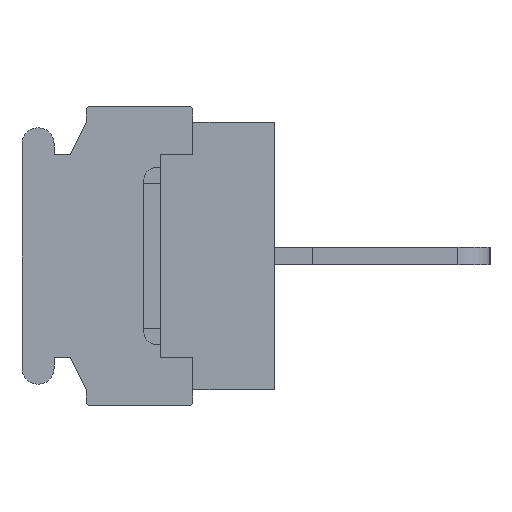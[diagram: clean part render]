
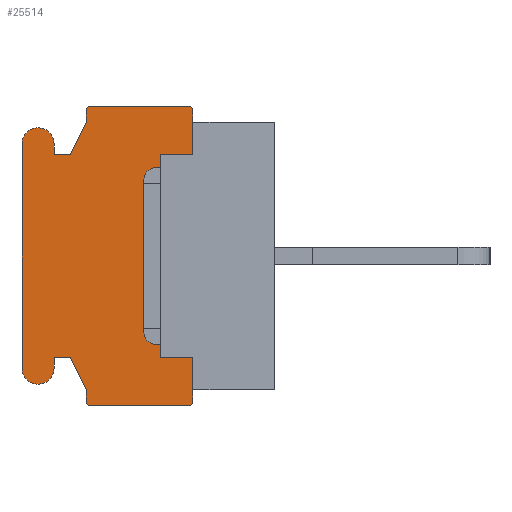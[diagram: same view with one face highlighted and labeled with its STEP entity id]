
A CAD part, left-side view. The second image highlights one B-rep face of the part: STEP entity #25514.
In plain terms, the highlighted planar face has unit normal (-1, 0, 0).
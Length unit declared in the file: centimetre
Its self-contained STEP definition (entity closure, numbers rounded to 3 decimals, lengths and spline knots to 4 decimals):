
#1472=PLANE('',#41555);
#2221=VECTOR('',#26888,1.);
#3900=VECTOR('',#30519,1.);
#3901=VECTOR('',#30520,1.);
#3902=VECTOR('',#30523,1.);
#3903=VECTOR('',#30526,1.);
#3904=VECTOR('',#30527,1.);
#3905=VECTOR('',#30528,1.);
#3906=VECTOR('',#30529,1.);
#3907=VECTOR('',#30532,1.);
#3908=VECTOR('',#30535,1.);
#3909=VECTOR('',#30536,1.);
#3910=VECTOR('',#30537,1.);
#3911=VECTOR('',#30538,1.);
#3912=VECTOR('',#30541,1.);
#3913=VECTOR('',#30544,1.);
#3914=VECTOR('',#30545,1.);
#3915=VECTOR('',#30546,1.);
#3916=VECTOR('',#30547,1.);
#4945=LINE('',#33283,#2221);
#6624=LINE('',#38357,#3900);
#6625=LINE('',#38359,#3901);
#6626=LINE('',#38363,#3902);
#6627=LINE('',#38367,#3903);
#6628=LINE('',#38369,#3904);
#6629=LINE('',#38371,#3905);
#6630=LINE('',#38373,#3906);
#6631=LINE('',#38377,#3907);
#6632=LINE('',#38381,#3908);
#6633=LINE('',#38383,#3909);
#6634=LINE('',#38385,#3910);
#6635=LINE('',#38387,#3911);
#6636=LINE('',#38391,#3912);
#6637=LINE('',#38395,#3913);
#6638=LINE('',#38396,#3914);
#6639=LINE('',#38398,#3915);
#6640=LINE('',#38399,#3916);
#7608=VERTEX_POINT('',#33284);
#7609=VERTEX_POINT('',#33285);
#7718=VERTEX_POINT('',#33587);
#7765=VERTEX_POINT('',#33686);
#9178=VERTEX_POINT('',#38358);
#9179=VERTEX_POINT('',#38360);
#9180=VERTEX_POINT('',#38362);
#9181=VERTEX_POINT('',#38364);
#9182=VERTEX_POINT('',#38366);
#9183=VERTEX_POINT('',#38368);
#9184=VERTEX_POINT('',#38370);
#9185=VERTEX_POINT('',#38372);
#9186=VERTEX_POINT('',#38374);
#9187=VERTEX_POINT('',#38376);
#9188=VERTEX_POINT('',#38378);
#9189=VERTEX_POINT('',#38380);
#9190=VERTEX_POINT('',#38382);
#9191=VERTEX_POINT('',#38384);
#9192=VERTEX_POINT('',#38386);
#9193=VERTEX_POINT('',#38388);
#9194=VERTEX_POINT('',#38390);
#9195=VERTEX_POINT('',#38392);
#9196=VERTEX_POINT('',#38394);
#9197=VERTEX_POINT('',#38397);
#10046=CIRCLE('',#41556,0.02);
#10047=CIRCLE('',#41557,0.02);
#10048=CIRCLE('',#41558,0.075);
#10049=CIRCLE('',#41559,0.075);
#10050=CIRCLE('',#41560,0.02);
#10051=CIRCLE('',#41561,0.02);
#10854=EDGE_CURVE('',#7608,#7609,#4945,.T.);
#13225=EDGE_CURVE('',#9178,#7718,#6624,.T.);
#13226=EDGE_CURVE('',#9179,#7718,#6625,.T.);
#13227=EDGE_CURVE('',#9180,#9179,#10046,.T.);
#13228=EDGE_CURVE('',#9181,#9180,#6626,.T.);
#13229=EDGE_CURVE('',#9182,#9181,#10047,.T.);
#13230=EDGE_CURVE('',#9183,#9182,#6627,.T.);
#13231=EDGE_CURVE('',#9184,#9183,#6628,.T.);
#13232=EDGE_CURVE('',#9185,#9184,#6629,.T.);
#13233=EDGE_CURVE('',#9186,#9185,#6630,.T.);
#13234=EDGE_CURVE('',#9187,#9186,#10048,.T.);
#13235=EDGE_CURVE('',#9188,#9187,#6631,.T.);
#13236=EDGE_CURVE('',#9189,#9188,#10049,.T.);
#13237=EDGE_CURVE('',#9190,#9189,#6632,.T.);
#13238=EDGE_CURVE('',#9191,#9190,#6633,.T.);
#13239=EDGE_CURVE('',#9192,#9191,#6634,.T.);
#13240=EDGE_CURVE('',#9193,#9192,#6635,.T.);
#13241=EDGE_CURVE('',#9194,#9193,#10050,.T.);
#13242=EDGE_CURVE('',#9195,#9194,#6636,.T.);
#13243=EDGE_CURVE('',#9196,#9195,#10051,.T.);
#13244=EDGE_CURVE('',#7765,#9196,#6637,.T.);
#13245=EDGE_CURVE('',#7765,#9197,#6638,.T.);
#13246=EDGE_CURVE('',#9197,#7608,#6639,.T.);
#13247=EDGE_CURVE('',#7609,#9178,#6640,.T.);
#20091=ORIENTED_EDGE('',*,*,#13225,.T.);
#20092=ORIENTED_EDGE('',*,*,#13226,.F.);
#20093=ORIENTED_EDGE('',*,*,#13227,.F.);
#20094=ORIENTED_EDGE('',*,*,#13228,.F.);
#20095=ORIENTED_EDGE('',*,*,#13229,.F.);
#20096=ORIENTED_EDGE('',*,*,#13230,.F.);
#20097=ORIENTED_EDGE('',*,*,#13231,.F.);
#20098=ORIENTED_EDGE('',*,*,#13232,.F.);
#20099=ORIENTED_EDGE('',*,*,#13233,.F.);
#20100=ORIENTED_EDGE('',*,*,#13234,.F.);
#20101=ORIENTED_EDGE('',*,*,#13235,.F.);
#20102=ORIENTED_EDGE('',*,*,#13236,.F.);
#20103=ORIENTED_EDGE('',*,*,#13237,.F.);
#20104=ORIENTED_EDGE('',*,*,#13238,.F.);
#20105=ORIENTED_EDGE('',*,*,#13239,.F.);
#20106=ORIENTED_EDGE('',*,*,#13240,.F.);
#20107=ORIENTED_EDGE('',*,*,#13241,.F.);
#20108=ORIENTED_EDGE('',*,*,#13242,.F.);
#20109=ORIENTED_EDGE('',*,*,#13243,.F.);
#20110=ORIENTED_EDGE('',*,*,#13244,.F.);
#20111=ORIENTED_EDGE('',*,*,#13245,.T.);
#20112=ORIENTED_EDGE('',*,*,#13246,.T.);
#20113=ORIENTED_EDGE('',*,*,#10854,.T.);
#20114=ORIENTED_EDGE('',*,*,#13247,.T.);
#22562=EDGE_LOOP('',(#20091,#20092,#20093,#20094,#20095,#20096,#20097,#20098,
#20099,#20100,#20101,#20102,#20103,#20104,#20105,#20106,#20107,#20108,#20109,
#20110,#20111,#20112,#20113,#20114));
#24108=FACE_BOUND('',#22562,.T.);
#25514=ADVANCED_FACE('',(#24108),#1472,.F.);
#26888=DIRECTION('',(0.,0.,1.));
#30518=DIRECTION('',(1.,0.,0.));
#30519=DIRECTION('',(0.,0.,1.));
#30520=DIRECTION('',(0.,0.,-1.));
#30521=DIRECTION('',(1.,0.,0.));
#30522=DIRECTION('',(0.,0.,-0.02));
#30523=DIRECTION('',(0.,-1.,0.));
#30524=DIRECTION('',(1.,0.,0.));
#30525=DIRECTION('',(0.,0.,-0.02));
#30526=DIRECTION('',(0.,0.,1.));
#30527=DIRECTION('',(0.,-0.447,0.894));
#30528=DIRECTION('',(0.,-1.,0.));
#30529=DIRECTION('',(0.,0.,-1.));
#30530=DIRECTION('',(1.,0.,0.));
#30531=DIRECTION('',(0.,0.,-0.075));
#30532=DIRECTION('',(0.,0.,1.));
#30533=DIRECTION('',(1.,0.,0.));
#30534=DIRECTION('',(0.,0.,-0.075));
#30535=DIRECTION('',(0.,0.,-1.));
#30536=DIRECTION('',(0.,1.,0.));
#30537=DIRECTION('',(0.,0.447,0.894));
#30538=DIRECTION('',(0.,0.,1.));
#30539=DIRECTION('',(1.,0.,0.));
#30540=DIRECTION('',(0.,0.,-0.02));
#30541=DIRECTION('',(0.,1.,0.));
#30542=DIRECTION('',(1.,0.,0.));
#30543=DIRECTION('',(0.,0.,-0.02));
#30544=DIRECTION('',(0.,0.,-1.));
#30545=DIRECTION('',(0.,0.,1.));
#30546=DIRECTION('',(0.,1.,0.));
#30547=DIRECTION('',(0.,-1.,0.));
#33283=CARTESIAN_POINT('',(-0.762,0.53,0.));
#33284=CARTESIAN_POINT('',(-0.762,0.53,-0.475));
#33285=CARTESIAN_POINT('',(-0.762,0.53,0.475));
#33587=CARTESIAN_POINT('',(-0.762,0.38,0.625));
#33686=CARTESIAN_POINT('',(-0.762,0.38,-0.625));
#38356=CARTESIAN_POINT('',(-0.762,0.6059,0.));
#38357=CARTESIAN_POINT('',(-0.762,0.38,0.275));
#38358=CARTESIAN_POINT('',(-0.762,0.38,0.475));
#38359=CARTESIAN_POINT('',(-0.762,0.38,0.68));
#38360=CARTESIAN_POINT('',(-0.762,0.38,0.68));
#38361=CARTESIAN_POINT('',(-0.762,0.4,0.68));
#38362=CARTESIAN_POINT('',(-0.762,0.4,0.7));
#38363=CARTESIAN_POINT('',(-0.762,0.86,0.7));
#38364=CARTESIAN_POINT('',(-0.762,0.86,0.7));
#38365=CARTESIAN_POINT('',(-0.762,0.86,0.68));
#38366=CARTESIAN_POINT('',(-0.762,0.88,0.68));
#38367=CARTESIAN_POINT('',(-0.762,0.88,0.625));
#38368=CARTESIAN_POINT('',(-0.762,0.88,0.625));
#38369=CARTESIAN_POINT('',(-0.762,0.955,0.475));
#38370=CARTESIAN_POINT('',(-0.762,0.955,0.475));
#38371=CARTESIAN_POINT('',(-0.762,1.03,0.475));
#38372=CARTESIAN_POINT('',(-0.762,1.03,0.475));
#38373=CARTESIAN_POINT('',(-0.762,1.03,0.525));
#38374=CARTESIAN_POINT('',(-0.762,1.03,0.525));
#38375=CARTESIAN_POINT('',(-0.762,1.105,0.525));
#38376=CARTESIAN_POINT('',(-0.762,1.18,0.525));
#38377=CARTESIAN_POINT('',(-0.762,1.18,-0.525));
#38378=CARTESIAN_POINT('',(-0.762,1.18,-0.525));
#38379=CARTESIAN_POINT('',(-0.762,1.105,-0.525));
#38380=CARTESIAN_POINT('',(-0.762,1.03,-0.525));
#38381=CARTESIAN_POINT('',(-0.762,1.03,-0.475));
#38382=CARTESIAN_POINT('',(-0.762,1.03,-0.475));
#38383=CARTESIAN_POINT('',(-0.762,0.955,-0.475));
#38384=CARTESIAN_POINT('',(-0.762,0.955,-0.475));
#38385=CARTESIAN_POINT('',(-0.762,0.88,-0.625));
#38386=CARTESIAN_POINT('',(-0.762,0.88,-0.625));
#38387=CARTESIAN_POINT('',(-0.762,0.88,-0.68));
#38388=CARTESIAN_POINT('',(-0.762,0.88,-0.68));
#38389=CARTESIAN_POINT('',(-0.762,0.86,-0.68));
#38390=CARTESIAN_POINT('',(-0.762,0.86,-0.7));
#38391=CARTESIAN_POINT('',(-0.762,0.4,-0.7));
#38392=CARTESIAN_POINT('',(-0.762,0.4,-0.7));
#38393=CARTESIAN_POINT('',(-0.762,0.4,-0.68));
#38394=CARTESIAN_POINT('',(-0.762,0.38,-0.68));
#38395=CARTESIAN_POINT('',(-0.762,0.38,-0.625));
#38396=CARTESIAN_POINT('',(-0.762,0.38,-0.275));
#38397=CARTESIAN_POINT('',(-0.762,0.38,-0.475));
#38398=CARTESIAN_POINT('',(-0.762,0.5304,-0.475));
#38399=CARTESIAN_POINT('',(-0.762,0.5304,0.475));
#41555=AXIS2_PLACEMENT_3D('',#38356,#30518,$);
#41556=AXIS2_PLACEMENT_3D('',#38361,#30521,#30522);
#41557=AXIS2_PLACEMENT_3D('',#38365,#30524,#30525);
#41558=AXIS2_PLACEMENT_3D('',#38375,#30530,#30531);
#41559=AXIS2_PLACEMENT_3D('',#38379,#30533,#30534);
#41560=AXIS2_PLACEMENT_3D('',#38389,#30539,#30540);
#41561=AXIS2_PLACEMENT_3D('',#38393,#30542,#30543);
